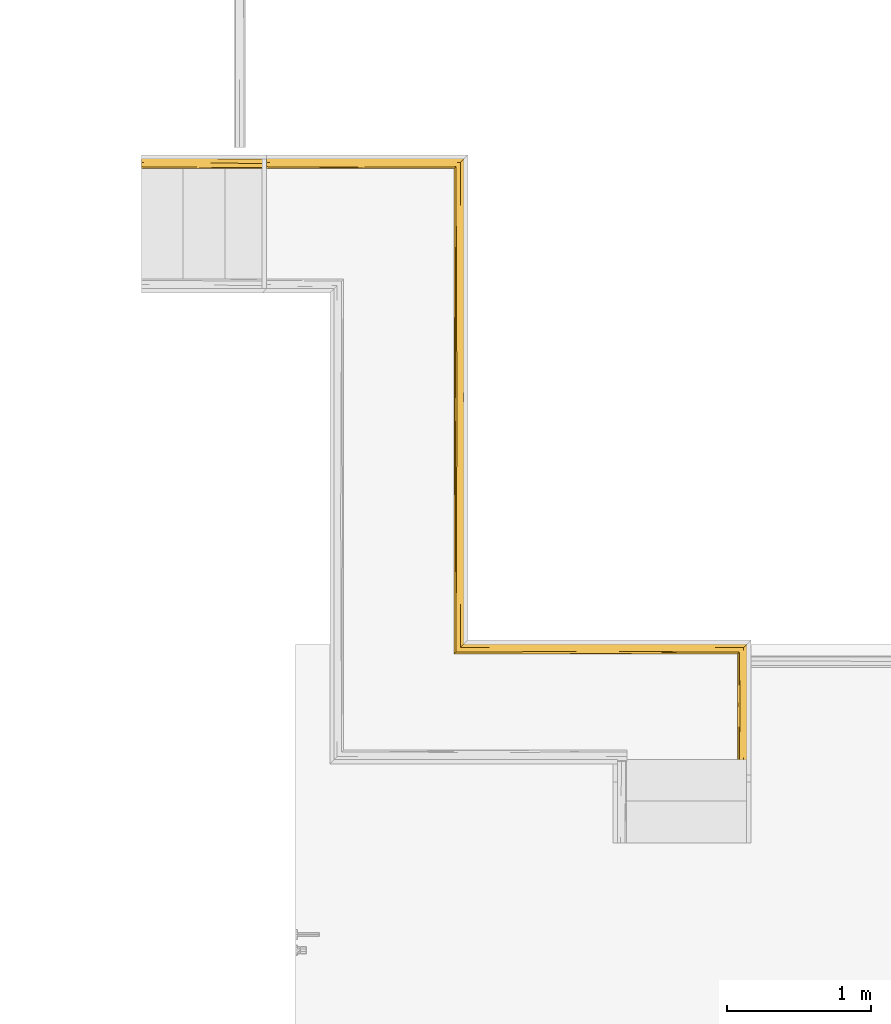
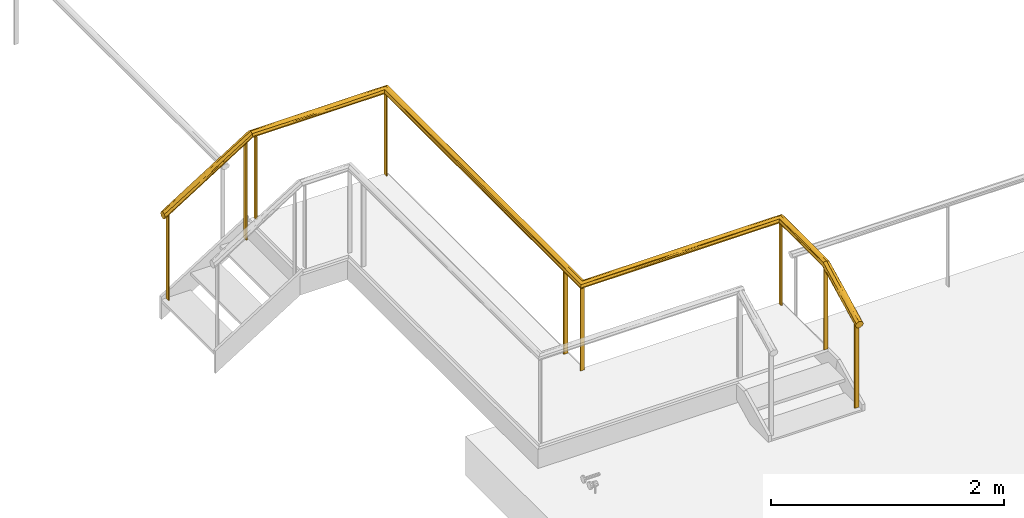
# One storey, part 14 of 15: 2 railings, 2 elements without a shape of their own.
"""IFC2X3 building model written with IfcOpenShell, lengths in centimetres."""

import ifcopenshell
import ifcopenshell.guid

model = None  # the IFC model being written
_history = None  # IfcOwnerHistory: only IFC2X3 demands one
_inside = {}  # id of a spatial element -> (the spatial element, [elements in it])
_under = {}  # id of a project, library or spatial element -> (it, [spatial elements below it])
_declared = {}  # id of a project -> (the project, [libraries it declares])
_typed = {}  # id of a type object -> (the type object, [elements of that type])
_made_of = {}  # id of a material, layer set ... -> (it, [elements and type objects made of it])


def new_model(schema):
    """Start an empty IFC model of exactly this schema.

    Asked for "IFC4X3", IfcOpenShell would pick the latest addendum, in which some entities
    have other attributes; the version numbers below select the first issue.
    IFC2X3 requires an IfcOwnerHistory on every rooted entity: one is made here for all.
    """
    global model, _history
    if schema == "IFC4X3":
        model = ifcopenshell.file(schema_version=(4, 3, 0, 0))
    else:
        model = ifcopenshell.file(schema=schema)
    _inside.clear()
    _under.clear()
    _declared.clear()
    _typed.clear()
    _made_of.clear()
    _history = None
    if model.schema == "IFC2X3":
        org = make("IfcOrganization", Name="unknown")
        user = make(
            "IfcPersonAndOrganization",
            ThePerson=make("IfcPerson", FamilyName="unknown"),
            TheOrganization=org,
        )
        app = make(
            "IfcApplication",
            ApplicationDeveloper=org,
            Version="unknown",
            ApplicationFullName="unknown",
            ApplicationIdentifier="unknown",
        )
        _history = make(
            "IfcOwnerHistory",
            OwningUser=user,
            OwningApplication=app,
            ChangeAction="ADDED",
            CreationDate=0,
        )
    return model


def make(cls, **values):
    """One entity of the class cls with the attributes given. An attribute that is None is left unset."""
    return model.create_entity(
        cls, **{name: value for name, value in values.items() if value is not None}
    )


def entity(cls, *values):
    """Any entity or typed value of the class cls, its attributes in the order of the schema. None: left unset."""
    e = model.create_entity(cls)
    for i, value in enumerate(values):
        if value is not None:
            e[i] = value
    return e


def rooted(cls, **values):
    """An entity with a GlobalId (a new one), such as an element, a storey or a relation."""
    return make(cls, GlobalId=ifcopenshell.guid.new(), OwnerHistory=_history, **values)


def si_unit(unit_type, name, prefix=None):
    """IfcSIUnit, for example si_unit("LENGTHUNIT", "METRE", prefix="MILLI")."""
    return make("IfcSIUnit", UnitType=unit_type, Prefix=prefix, Name=name)


def converted_unit(unit_type, name, factor, base, dimensions=None, offset=None):
    """IfcConversionBasedUnit, such as the inch: factor (a typed value) times the base unit."""
    return make(
        "IfcConversionBasedUnit"
        if offset is None
        else "IfcConversionBasedUnitWithOffset",
        ConversionOffset=offset,
        Dimensions=None
        if dimensions is None
        else entity("IfcDimensionalExponents", *dimensions),
        UnitType=unit_type,
        Name=name,
        ConversionFactor=make(
            "IfcMeasureWithUnit", ValueComponent=factor, UnitComponent=base
        ),
    )


def derived_unit(unit_type, elements):
    """IfcDerivedUnit: a product of units, each with its exponent."""
    return make(
        "IfcDerivedUnit",
        Elements=[
            make("IfcDerivedUnitElement", Unit=unit, Exponent=power)
            for unit, power in elements
        ],
        UnitType=unit_type,
    )


def assignment(units):
    """IfcUnitAssignment: the units of a project."""
    return None if units is None else make("IfcUnitAssignment", Units=units)


def point(xyz):
    """IfcCartesianPoint."""
    return None if xyz is None else make("IfcCartesianPoint", Coordinates=xyz)


def direction(xyz):
    """IfcDirection."""
    return None if xyz is None else make("IfcDirection", DirectionRatios=xyz)


def frame(location, z_axis=None, x_axis=None):
    """IfcAxis2Placement3D, a coordinate frame: its origin and axes. An axis left out is left unset."""
    return make(
        "IfcAxis2Placement3D",
        Location=point(location),
        Axis=direction(z_axis),
        RefDirection=direction(x_axis),
    )


def origin():
    """The frame at (0, 0, 0) with its axes left unset."""
    return frame((0.0, 0.0, 0.0))


def place(relative_to, where):
    """IfcLocalPlacement: puts the frame where relative to a parent placement (None: the world)."""
    return make(
        "IfcLocalPlacement", PlacementRelTo=relative_to, RelativePlacement=where
    )


def context(
    kind, dimensions, precision=None, world=None, true_north=None, identifier=None
):
    """IfcGeometricRepresentationContext, for example the 3D "Model" context."""
    return make(
        "IfcGeometricRepresentationContext",
        ContextIdentifier=identifier,
        ContextType=kind,
        CoordinateSpaceDimension=dimensions,
        Precision=precision,
        WorldCoordinateSystem=world,
        TrueNorth=true_north,
    )


def subcontext(parent, identifier, kind, view, scale=None):
    """IfcGeometricRepresentationSubContext, for example "Body" below "Model"."""
    return make(
        "IfcGeometricRepresentationSubContext",
        ContextIdentifier=identifier,
        ContextType=kind,
        ParentContext=parent,
        TargetScale=scale,
        TargetView=view,
    )


def project(units=None, contexts=None):
    """IfcProject with its units and contexts."""
    return rooted(
        "IfcProject",
        Name="project",
        RepresentationContexts=contexts,
        UnitsInContext=assignment(units),
    )


def spatial(cls, under=None, at=None, **own):
    """A site, building, storey or space (cls), placed at a placement, below another one or the project."""
    s = rooted(cls, ObjectPlacement=at, **own)
    if under is not None:
        _under.setdefault(under.id(), (under, []))[1].append(s)
    return s


def faces_of(points, faces, orient=None, outer=None):
    """IfcFace entities. A face is a list of loops; a loop is a list of indices into points, from 0.

    orient and outer hold one flag for each loop. By default every Orientation is true, the
    first loop of a face is its IfcFaceOuterBound and the others are IfcFaceBound.
    """
    made = []
    for i, loops in enumerate(faces):
        bounds = []
        for j, loop in enumerate(loops):
            is_outer = j == 0 if outer is None else outer[i][j]
            bounds.append(
                make(
                    "IfcFaceOuterBound" if is_outer else "IfcFaceBound",
                    Bound=make("IfcPolyLoop", Polygon=[points[k] for k in loop]),
                    Orientation=True if orient is None else orient[i][j],
                )
            )
        made.append(make("IfcFace", Bounds=bounds))
    return made


def faceted_brep(points, faces, orient=None, outer=None, voids=None):
    """IfcFacetedBrep: a solid bounded by flat faces; with voids (closed shells), ...WithVoids."""
    shared = [point(p) for p in points]
    hull = make("IfcClosedShell", CfsFaces=faces_of(shared, faces, orient, outer))
    if voids is None:
        return make("IfcFacetedBrep", Outer=hull)
    return make(
        "IfcFacetedBrepWithVoids",
        Outer=hull,
        Voids=[
            make(cls, CfsFaces=faces_of(shared, fs, o, b)) for cls, fs, o, b in voids
        ],
    )


def shape(context_of_items, identifier, shape_type, items):
    """IfcShapeRepresentation: the items that make up one representation, for example the "Body"."""
    return make(
        "IfcShapeRepresentation",
        ContextOfItems=context_of_items,
        RepresentationIdentifier=identifier,
        RepresentationType=shape_type,
        Items=items,
    )


def material(Name=None, Category=None):
    """IfcMaterial."""
    return make("IfcMaterial", Name=Name, Category=Category)


def material_list(materials):
    """IfcMaterialList."""
    return make("IfcMaterialList", Materials=materials)


def made_of(thing, what):
    """Note that an element or type object is made of a material, layer set ...; save() writes the relation."""
    if what is not None:
        _made_of.setdefault(what.id(), (what, []))[1].append(thing)
    return thing


def element(
    cls,
    number,
    at=None,
    inside=None,
    cuts=None,
    type_object=None,
    material=None,
    context=None,
    identifier="Body",
    shape_type=None,
    held_by="IfcProductDefinitionShape",
    body=None,
    shapes=None,
    **own,
):
    """One element of the class cls, such as IfcWall. Its Tag is "e" and its number.

    at: its placement. inside: the storey or other place that contains it. cuts: it is an
    opening in that element (IfcRelVoidsElement). A single representation is given by context,
    identifier, shape_type and body (its items); several are given by shapes. held_by: the class
    of the entity that holds the representations. save() writes the other relations.
    """
    e = rooted(cls, Tag="e%d" % number, ObjectPlacement=at, **own)
    if body is not None:
        shapes = [shape(context, identifier, shape_type, body)]
    if shapes is not None:
        e.Representation = make(held_by, Representations=shapes)
    if inside is not None:
        _inside.setdefault(inside.id(), (inside, []))[1].append(e)
    if cuts is not None:
        rooted(
            "IfcRelVoidsElement", RelatingBuildingElement=cuts, RelatedOpeningElement=e
        )
    if type_object is not None:
        _typed.setdefault(type_object.id(), (type_object, []))[1].append(e)
    return made_of(e, material)


def aggregate(whole, parts):
    """IfcRelAggregates: a whole, such as a stair, and the parts it consists of."""
    return rooted("IfcRelAggregates", RelatingObject=whole, RelatedObjects=parts)


def save(model, path):
    """Write the relations noted so far, then the file.

    IfcRelAggregates (storeys below a building ...), IfcRelContainedInSpatialStructure (elements
    in a storey), IfcRelDefinesByType, IfcRelAssociatesMaterial and IfcRelDeclares: one each for
    every whole, place, type object, material and project.
    """
    for whole, parts in _under.values():
        aggregate(whole, parts)
    for where, things in _inside.values():
        rooted(
            "IfcRelContainedInSpatialStructure",
            RelatedElements=things,
            RelatingStructure=where,
        )
    for kind, things in _typed.values():
        rooted("IfcRelDefinesByType", RelatedObjects=things, RelatingType=kind)
    for what, things in _made_of.values():
        rooted("IfcRelAssociatesMaterial", RelatedObjects=things, RelatingMaterial=what)
    for by, libraries in _declared.values():
        rooted("IfcRelDeclares", RelatingContext=by, RelatedDefinitions=libraries)
    model.write(path)


model = new_model("IFC2X3")

# Units and contexts
model_context = context("Model", 3, precision=0.001, world=origin(), true_north=direction((6.12303176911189e-17, 1.0)))
body_context = subcontext(model_context, "Body", "Model", "MODEL_VIEW")
ifc_project = project(units=[si_unit("LENGTHUNIT", "METRE", prefix="CENTI"), si_unit("AREAUNIT", "SQUARE_METRE"), si_unit("VOLUMEUNIT", "CUBIC_METRE"), converted_unit("PLANEANGLEUNIT", "DEGREE", entity("IfcRatioMeasure", 0.0174532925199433), si_unit("PLANEANGLEUNIT", "RADIAN"), dimensions=[0, 0, 0, 0, 0, 0, 0]), si_unit("MASSUNIT", "GRAM", prefix="KILO"), si_unit("TIMEUNIT", "SECOND"), si_unit("FREQUENCYUNIT", "HERTZ"), si_unit("THERMODYNAMICTEMPERATUREUNIT", "DEGREE_CELSIUS"), derived_unit("THERMALTRANSMITTANCEUNIT", [(si_unit("MASSUNIT", "GRAM", prefix="KILO"), 1), (si_unit("THERMODYNAMICTEMPERATUREUNIT", "KELVIN"), -1), (si_unit("TIMEUNIT", "SECOND"), -3)]), derived_unit("VOLUMETRICFLOWRATEUNIT", [(si_unit("LENGTHUNIT", "METRE"), 3), (si_unit("TIMEUNIT", "SECOND"), -1)]), si_unit("ELECTRICCURRENTUNIT", "AMPERE"), si_unit("ELECTRICVOLTAGEUNIT", "VOLT"), si_unit("POWERUNIT", "WATT"), si_unit("FORCEUNIT", "NEWTON", prefix="KILO"), si_unit("ILLUMINANCEUNIT", "LUX"), si_unit("LUMINOUSFLUXUNIT", "LUMEN"), si_unit("LUMINOUSINTENSITYUNIT", "CANDELA"), derived_unit("USERDEFINED", [(si_unit("MASSUNIT", "GRAM", prefix="KILO"), -1), (si_unit("LENGTHUNIT", "METRE"), -2), (si_unit("TIMEUNIT", "SECOND"), 3), (si_unit("LUMINOUSFLUXUNIT", "LUMEN"), 1)]), derived_unit("LINEARVELOCITYUNIT", [(si_unit("LENGTHUNIT", "METRE"), 1), (si_unit("TIMEUNIT", "SECOND"), -1)]), si_unit("PRESSUREUNIT", "PASCAL"), derived_unit("USERDEFINED", [(si_unit("LENGTHUNIT", "METRE"), -2), (si_unit("MASSUNIT", "GRAM", prefix="KILO"), 1), (si_unit("TIMEUNIT", "SECOND"), -2)])], contexts=[model_context])

# Site, building, storey
site_placement = place(None, frame((8.62739174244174, -249.285249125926, 0.0)))
site = spatial("IfcSite", under=ifc_project, at=site_placement, Name="Default", CompositionType="ELEMENT")
building_placement = place(site_placement, origin())
building = spatial("IfcBuilding", under=site, at=building_placement, CompositionType="ELEMENT")
storey_placement = place(building_placement, frame((0.0, 0.0, 801.0)))
storey = spatial("IfcBuildingStorey", under=building, at=storey_placement, Name="Acrotère E3", CompositionType="ELEMENT", Elevation=801.0)

# Stair, railing
stair_1_placement = place(storey_placement, origin())
stair_1 = element("IfcStair", 1, at=stair_1_placement, inside=storey, Name="Escalier assemblé:Escalier", ShapeType="NOTDEFINED")
ifc_material_1 = material(Name="Peinture - Grise")
ifc_material_2 = material(Name="Pin (1)")
ifc_material_list_1 = material_list([ifc_material_1, ifc_material_2])
railing_1_placement = place(stair_1_placement, frame((2946.90482781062, 6425.77789410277, -0.666666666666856)))
railing_1 = element("IfcRailing", 2, at=railing_1_placement, material=ifc_material_list_1, Name="Garde-corps:Type Bateau", ObjectType="Garde-corps:Type Bateau", PredefinedType="NOTDEFINED", context=body_context, shape_type="Brep", body=[
    faceted_brep([(82.6000000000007, 2.15952722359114, 137.963695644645), (82.6000000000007, 6.15952722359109, 137.963695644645), (81.4000000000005, 6.15952722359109, 137.963695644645), (81.4000000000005, 2.15952722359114, 137.963695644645), (82.6000000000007, 2.15952722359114, 36.4444444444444), (81.4000000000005, 2.15952722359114, 36.4444444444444), (81.4000000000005, 6.15952722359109, 36.4444444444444), (82.6000000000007, 6.15952722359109, 36.4444444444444)], [[[0, 1, 2, 3]], [[4, 5, 6, 7]], [[3, 5, 4, 0]], [[2, 6, 5, 3]], [[1, 7, 6, 2]], [[0, 4, 7, 1]]]),
    faceted_brep([(5.60000000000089, 2.15952722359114, 89.5805538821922), (5.60000000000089, 6.15952722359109, 89.5805538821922), (4.40000000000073, 6.15952722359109, 89.5805538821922), (4.40000000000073, 2.15952722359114, 89.5805538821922), (5.60000000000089, 2.15952722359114, 0.0), (4.40000000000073, 2.15952722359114, 0.0), (4.40000000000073, 6.15952722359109, 0.0), (5.60000000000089, 6.15952722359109, 0.0)], [[[0, 1, 2, 3]], [[4, 5, 6, 7]], [[3, 5, 4, 0]], [[2, 6, 5, 3]], [[1, 7, 6, 2]], [[0, 4, 7, 1]]]),
    faceted_brep([(0.0, 1.48300479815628, 92.633024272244), (0.0, 3.03032293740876, 93.0783492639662), (0.0, 4.5776410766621, 93.5236742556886), (0.0, 5.98661813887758, 92.8031232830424), (0.0, 7.39559520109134, 92.0825723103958), (0.0, 7.77756121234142, 91.0412861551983), (0.0, 8.1595272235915, 90.0), (0.0, 7.49778843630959, 88.6834878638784), (0.0, 6.83604964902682, 87.3669757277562), (0.0, 5.28873150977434, 86.9216507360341), (0.0, 4.5150724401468, 86.6989882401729), (0.0, 3.741413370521, 86.4763257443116), (0.0, 2.33243630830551, 87.1968767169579), (0.0, 0.923459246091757, 87.9174276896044), (0.0, 0.541493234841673, 88.9587138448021), (0.0, 0.15952722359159, 90.0), (0.0, 0.821266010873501, 91.316512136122), (87.0, 0.821266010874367, 143.350154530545), (87.0, 1.48300479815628, 142.033642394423), (87.0, 3.03032293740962, 141.588317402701), (87.0, 4.5776410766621, 141.142992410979), (87.0, 5.98661813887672, 141.863543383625), (87.0, 7.39559520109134, 142.584094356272), (87.0, 7.77756121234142, 143.625380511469), (87.0, 8.1595272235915, 144.666666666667), (87.0, 7.49778843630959, 145.983178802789), (87.0, 6.83604964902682, 147.299690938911), (87.0, 5.28873150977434, 147.745015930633), (87.0, 3.741413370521, 148.190340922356), (87.0, 2.33243630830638, 147.46978994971), (87.0, 0.923459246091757, 146.749238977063), (87.0, 0.541493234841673, 145.707952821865), (87.0, 0.15952722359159, 144.666666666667), (36.8666003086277, 8.02411869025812, 112.251143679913), (46.6073203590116, 0.7842993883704, 117.384441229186), (45.3720805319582, 3.42748462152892, 115.026415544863), (38.2869607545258, 6.05579838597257, 110.938063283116), (43.5242527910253, 4.98840300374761, 113.882393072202), (46.5504868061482, 2.3819247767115, 116.076120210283), (36.1371269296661, 1.48583532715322, 110.071574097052), (45.8486968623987, 0.336276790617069, 117.767559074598), (26.1494504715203, 8.15952722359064, 106.431072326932), (60.8505463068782, 8.1595272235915, 128.235592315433), (43.3404633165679, 7.61809586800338, 115.453084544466), (48.2161761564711, 6.94974299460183, 117.758020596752), (60.8505463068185, 0.15952722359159, 128.235592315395), (26.1494504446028, 0.15952722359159, 106.431072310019), (46.3428116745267, 0.560433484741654, 120.66567183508), (42.8649360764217, 1.1628965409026, 119.281198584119), (39.4937956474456, 1.99016423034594, 117.792777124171), (49.7508696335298, 2.98258791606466, 124.647325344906), (42.7976339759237, 4.12025700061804, 120.434912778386), (39.7696267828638, 8.06398392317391, 115.759107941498), (39.6862148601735, 7.72721402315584, 116.539078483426), (39.5561967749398, 5.2047299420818, 118.275222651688), (42.7017685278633, 7.10232025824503, 119.231526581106), (49.6878665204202, 6.21182380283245, 124.262680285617)], [[[0, 1, 2, 3, 4, 5, 6, 7, 8, 9, 10, 11, 12, 13, 14, 15, 16]], [[17, 18, 19, 20, 21, 22, 23, 24, 25, 26, 27, 28, 29, 30, 31, 32]], [[7, 6, 33]], [[14, 13, 34]], [[11, 35, 12]], [[9, 36, 37]], [[37, 36, 21]], [[12, 38, 39]], [[13, 39, 34]], [[17, 34, 18]], [[35, 38, 12]], [[10, 9, 37]], [[14, 34, 40]], [[33, 6, 41, 42, 24]], [[8, 43, 44]], [[39, 13, 12]], [[36, 8, 44]], [[17, 40, 34]], [[19, 18, 38]], [[18, 34, 39]], [[40, 17, 32]], [[40, 32, 45, 46, 15]], [[14, 40, 15]], [[39, 38, 18]], [[35, 19, 38]], [[35, 20, 19]], [[11, 10, 35]], [[20, 35, 37]], [[10, 37, 35]], [[20, 37, 21]], [[22, 21, 44]], [[36, 9, 8]], [[36, 44, 21]], [[22, 44, 43]], [[33, 23, 43]], [[7, 43, 8]], [[23, 22, 43]], [[43, 7, 33]], [[23, 33, 24]], [[30, 47, 31]], [[48, 49, 0]], [[49, 50, 1]], [[1, 50, 51]], [[52, 53, 25]], [[2, 51, 54]], [[55, 26, 25]], [[55, 53, 4]], [[52, 25, 24]], [[16, 15, 46]], [[55, 25, 53]], [[5, 4, 53]], [[5, 53, 52]], [[56, 55, 3]], [[56, 3, 54]], [[48, 29, 49]], [[26, 55, 56]], [[52, 24, 42, 41, 6]], [[54, 51, 27]], [[55, 4, 3]], [[56, 27, 26]], [[27, 56, 54]], [[28, 27, 51]], [[2, 54, 3]], [[28, 51, 50]], [[51, 2, 1]], [[50, 29, 28]], [[29, 50, 49]], [[30, 29, 48]], [[0, 49, 1]], [[31, 46, 45, 32]], [[48, 0, 16]], [[16, 47, 48]], [[5, 52, 6]], [[47, 16, 46]], [[48, 47, 30]], [[31, 47, 46]]]),
])
aggregate(stair_1, [railing_1])

stair_2_placement = place(storey_placement, origin())
stair_2 = element("IfcStair", 3, at=stair_2_placement, inside=storey, Name="Escalier assemblé:Escalier", ShapeType="NOTDEFINED")
ifc_material_list_2 = material_list([ifc_material_1, ifc_material_2])
railing_2_placement = place(stair_2_placement, frame((3033.90482781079, 5956.9802081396, 24.8888888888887)))
railing_2 = element("IfcRailing", 4, at=railing_2_placement, material=ifc_material_list_2, Name="Garde-corps:Type Bateau", ObjectType="Garde-corps:Type Bateau", PredefinedType="NOTDEFINED", context=body_context, shape_type="Brep", body=[
    faceted_brep([(132.45999998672, 163.608606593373, 116.095764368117), (136.45999998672, 163.608606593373, 116.095764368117), (136.45999998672, 164.808606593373, 116.095764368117), (132.45999998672, 164.808606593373, 116.095764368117), (132.45999998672, 163.608606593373, 29.111111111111), (132.45999998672, 164.808606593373, 29.111111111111), (136.45999998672, 164.808606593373, 29.111111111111), (136.45999998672, 163.608606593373, 29.111111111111)], [[[0, 1, 2, 3]], [[4, 5, 6, 7]], [[3, 5, 4, 0]], [[2, 6, 5, 3]], [[1, 7, 6, 2]], [[0, 4, 7, 1]]]),
    faceted_brep([(329.459999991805, 57.3999999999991, 116.095764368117), (333.459999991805, 57.3999999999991, 116.095764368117), (333.459999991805, 58.5999999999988, 116.095764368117), (329.459999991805, 58.5999999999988, 116.095764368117), (329.459999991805, 57.3999999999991, 29.111111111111), (329.459999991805, 58.5999999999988, 29.111111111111), (333.459999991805, 58.5999999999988, 29.111111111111), (333.459999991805, 57.3999999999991, 29.111111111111)], [[[0, 1, 2, 3]], [[4, 5, 6, 7]], [[3, 5, 4, 0]], [[2, 6, 5, 3]], [[1, 7, 6, 2]], [[0, 4, 7, 1]]]),
    faceted_brep([(332.059999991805, 133.459999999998, 116.095764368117), (332.059999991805, 137.459999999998, 116.095764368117), (330.859999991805, 137.459999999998, 116.095764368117), (330.859999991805, 133.459999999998, 116.095764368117), (332.059999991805, 133.459999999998, 29.111111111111), (330.859999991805, 133.459999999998, 29.111111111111), (330.859999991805, 137.459999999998, 29.111111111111), (332.059999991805, 137.459999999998, 29.111111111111)], [[[0, 1, 2, 3]], [[4, 5, 6, 7]], [[3, 5, 4, 0]], [[2, 6, 5, 3]], [[1, 7, 6, 2]], [[0, 4, 7, 1]]]),
    faceted_brep([(132.45999998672, 134.859999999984, 116.095764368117), (136.45999998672, 134.859999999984, 116.095764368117), (136.45999998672, 136.059999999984, 116.095764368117), (132.45999998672, 136.059999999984, 116.095764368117), (132.45999998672, 134.859999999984, 29.111111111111), (132.45999998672, 136.059999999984, 29.111111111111), (136.45999998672, 136.059999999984, 29.111111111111), (136.45999998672, 134.859999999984, 29.111111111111)], [[[0, 1, 2, 3]], [[4, 5, 6, 7]], [[3, 5, 4, 0]], [[2, 6, 5, 3]], [[1, 7, 6, 2]], [[0, 4, 7, 1]]]),
    faceted_brep([(135.059999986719, 470.957213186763, 116.095764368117), (135.059999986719, 474.957213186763, 116.095764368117), (133.859999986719, 474.957213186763, 116.095764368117), (133.859999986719, 470.957213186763, 116.095764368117), (135.059999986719, 470.957213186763, 29.111111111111), (133.859999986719, 470.957213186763, 29.111111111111), (133.859999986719, 474.957213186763, 29.111111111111), (135.059999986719, 474.957213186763, 29.111111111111)], [[[0, 1, 2, 3]], [[4, 5, 6, 7]], [[3, 5, 4, 0]], [[2, 6, 5, 3]], [[1, 7, 6, 2]], [[0, 4, 7, 1]]]),
    faceted_brep([(329.459999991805, 4.399999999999, 89.1357311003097), (333.459999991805, 4.399999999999, 89.1357311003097), (333.459999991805, 5.59999999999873, 89.1357311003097), (329.459999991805, 5.59999999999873, 89.1357311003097), (329.459999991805, 4.399999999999, 0.0), (329.459999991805, 5.59999999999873, 0.0), (333.459999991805, 5.59999999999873, 0.0), (333.459999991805, 4.399999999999, 0.0)], [[[0, 1, 2, 3]], [[4, 5, 6, 7]], [[3, 5, 4, 0]], [[2, 6, 5, 3]], [[1, 7, 6, 2]], [[0, 4, 7, 1]]]),
    faceted_brep([(5.60000000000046, 470.957213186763, 116.095764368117), (5.60000000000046, 474.957213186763, 116.095764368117), (4.4000000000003, 474.957213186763, 116.095764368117), (4.4000000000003, 470.957213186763, 116.095764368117), (5.60000000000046, 470.957213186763, 29.111111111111), (4.4000000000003, 470.957213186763, 29.111111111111), (4.4000000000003, 474.957213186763, 29.111111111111), (5.60000000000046, 474.957213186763, 29.111111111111)], [[[0, 1, 2, 3]], [[4, 5, 6, 7]], [[3, 5, 4, 0]], [[2, 6, 5, 3]], [[1, 7, 6, 2]], [[0, 4, 7, 1]]]),
    faceted_brep([(0.0, 476.295474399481, 117.996393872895), (0.0, 475.633735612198, 116.881676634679), (0.0, 474.086417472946, 116.504611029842), (0.0, 472.539099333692, 116.127545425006), (0.0, 471.130122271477, 116.73765038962), (0.0, 469.721145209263, 117.347755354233), (0.0, 469.324942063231, 118.262296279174), (0.0, 468.957213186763, 119.111111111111), (0.0, 469.44945027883, 119.940298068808), (0.0, 469.865070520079, 120.640421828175), (0.0, 470.280690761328, 121.340545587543), (0.0, 471.82800890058, 121.717611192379), (0.0, 473.375327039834, 122.094676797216), (0.0, 474.784304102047, 121.484571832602), (0.0, 476.193281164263, 120.874466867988), (0.0, 476.575247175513, 119.99278898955), (0.0, 476.957213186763, 119.111111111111), (134.041886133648, 472.539099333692, 116.127545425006), (132.632909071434, 471.130122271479, 116.73765038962), (67.0209428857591, 471.732988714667, 116.255070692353), (66.3164544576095, 470.781863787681, 116.59353917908), (65.611966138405, 470.011020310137, 117.08195599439), (131.22393200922, 469.721145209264, 117.347755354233), (130.841965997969, 469.339179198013, 118.229433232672), (65.6119650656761, 469.395204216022, 117.746174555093), (70.7153311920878, 469.067158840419, 118.412572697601), (130.459999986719, 468.957213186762, 119.111111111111), (83.4251686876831, 468.957213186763, 119.111111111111), (80.9792287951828, 468.957213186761, 119.111111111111), (68.5682611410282, 474.969302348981, 116.518290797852), (67.0209431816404, 473.375327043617, 116.127545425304), (68.5682612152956, 475.796637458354, 116.998070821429), (73.4792933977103, 476.584936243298, 117.847271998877), (137.559362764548, 476.056575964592, 117.593962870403), (55.0348273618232, 476.957213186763, 119.111111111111), (57.4807748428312, 476.957213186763, 119.111111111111), (138.459999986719, 476.957213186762, 119.111111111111), (137.98220311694, 476.479416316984, 118.306249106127), (135.589204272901, 474.086417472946, 116.504611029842), (137.136522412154, 475.633735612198, 116.881676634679), (137.844035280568, 476.341248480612, 118.07350157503), (68.8480330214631, 476.521239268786, 120.473082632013), (137.696067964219, 476.193281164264, 120.874466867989), (137.985940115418, 476.483153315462, 120.205365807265), (138.078033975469, 476.575247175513, 119.99278898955), (76.9172436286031, 476.852337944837, 119.793571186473), (68.1435457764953, 474.205312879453, 121.961332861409), (68.8480341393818, 475.855869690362, 121.178417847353), (133.330795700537, 471.828008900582, 121.717611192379), (134.87811383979, 473.375327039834, 122.094676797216), (67.439057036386, 472.552767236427, 122.095736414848), (65.891738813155, 469.913918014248, 121.057986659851), (65.8917387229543, 470.803397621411, 121.63907603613), (60.9914690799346, 469.343553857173, 120.397413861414), (136.287090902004, 474.784304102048, 121.484571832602), (131.121738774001, 469.618951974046, 120.225828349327), (131.783477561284, 470.280690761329, 121.340545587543), (65.2200861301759, 475.095498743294, 121.646481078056), (70.8757806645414, 471.641617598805, 121.944206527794), (130.896808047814, 300.972540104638, 117.747912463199), (131.223932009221, 132.223932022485, 117.347755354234), (130.84196599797, 131.841966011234, 118.229433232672), (130.564640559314, 316.790280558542, 118.429404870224), (130.45999998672, 261.707692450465, 119.111111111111), (133.219115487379, 302.381515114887, 116.259117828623), (131.543284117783, 300.97253834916, 117.058141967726), (137.731096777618, 315.572780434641, 117.384493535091), (132.632909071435, 133.6329090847, 116.73765038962), (134.04188613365, 135.041886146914, 116.127545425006), (134.872583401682, 303.790492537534, 116.127112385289), (137.798261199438, 138.798261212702, 117.996393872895), (137.136522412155, 138.13652242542, 116.881676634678), (135.589204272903, 136.589204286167, 116.504611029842), (136.455182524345, 305.33781070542, 116.510952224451), (138.308561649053, 302.652160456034, 118.293448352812), (138.45999998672, 346.710452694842, 119.111111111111), (138.45999998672, 269.707692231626, 119.111111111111), (138.45999998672, 139.459999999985, 119.111111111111), (130.765204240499, 131.765204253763, 118.406619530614), (130.45999998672, 131.459999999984, 119.111111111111), (132.313945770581, 305.928681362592, 116.579436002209), (137.953608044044, 307.444675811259, 120.5721108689), (137.144578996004, 307.44467388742, 121.335090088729), (136.287090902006, 137.28709091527, 121.484571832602), (135.691249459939, 304.626720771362, 121.965452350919), (137.69606796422, 138.696067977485, 120.874466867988), (138.337964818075, 328.741628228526, 119.84648936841), (132.455186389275, 301.532084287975, 121.707099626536), (134.047416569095, 304.626720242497, 122.095109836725), (130.611438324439, 305.765052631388, 119.92877386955), (131.225334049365, 301.532084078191, 120.875913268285), (134.878113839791, 135.878113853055, 122.094676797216), (131.783477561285, 132.78347757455, 121.340545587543), (133.330795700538, 134.330795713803, 121.717611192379), (130.856563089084, 131.856563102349, 119.779132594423), (131.075964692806, 132.075964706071, 120.148720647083), (138.07803397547, 139.078033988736, 119.99278898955), (131.253126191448, 132.253126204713, 120.447154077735), (229.7239308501, 131.897356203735, 117.747106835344), (229.723932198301, 132.526824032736, 117.0713760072), (231.13290898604, 133.300315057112, 116.585964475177), (328.223932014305, 132.223932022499, 117.347755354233), (327.841966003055, 131.841966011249, 118.229433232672), (235.636522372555, 137.83153000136, 116.695244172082), (334.13652241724, 138.136522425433, 116.881676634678), (332.589204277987, 136.589204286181, 116.504611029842), (239.081663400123, 131.570904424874, 118.409576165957), (234.089204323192, 136.936595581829, 116.323000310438), (232.541885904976, 134.231898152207, 116.25600720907), (229.970305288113, 131.459999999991, 119.111111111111), (235.636522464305, 138.597993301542, 117.250718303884), (331.041886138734, 135.041886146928, 116.127545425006), (329.632909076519, 133.632909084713, 116.73765038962), (239.403270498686, 139.124162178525, 117.907854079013), (334.666873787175, 138.666873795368, 117.775068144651), (232.541886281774, 135.868974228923, 116.126832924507), (235.949698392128, 139.459999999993, 119.111111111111), (335.06343688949, 139.063436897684, 118.443089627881), (334.85060943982, 138.850609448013, 118.084575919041), (335.459999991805, 139.459999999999, 119.111111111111), (327.459999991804, 131.459999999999, 119.111111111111), (236.196066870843, 139.02264379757, 120.475115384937), (334.696067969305, 138.696067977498, 120.874466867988), (334.970383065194, 138.970383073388, 120.241275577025), (335.078033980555, 139.078033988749, 119.992788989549), (230.283477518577, 133.088469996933, 121.526978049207), (246.226331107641, 139.349155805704, 119.812458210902), (234.787091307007, 136.70402868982, 121.962333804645), (236.19606813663, 138.393175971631, 121.150846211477), (230.283477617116, 132.322006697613, 120.971503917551), (231.83079574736, 133.983404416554, 121.899221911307), (226.516729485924, 131.795837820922, 120.314368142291), (333.28709090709, 137.287090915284, 121.484571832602), (331.878113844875, 135.878113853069, 122.094676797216), (233.378113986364, 135.051025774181, 122.095389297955), (328.78347756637, 132.783477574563, 121.340545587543), (330.330795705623, 134.330795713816, 121.717611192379), (328.121738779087, 132.121738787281, 120.225828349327), (234.78709080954, 137.619684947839, 121.636257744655), (327.89924638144, 95.3208153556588, 117.744333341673), (328.223932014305, 58.4176975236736, 117.347755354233), (327.841966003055, 58.2088487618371, 118.229433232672), (328.472384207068, 95.3208147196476, 117.11631526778), (327.56888950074, 96.3391338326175, 118.415889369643), (330.221950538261, 96.0975628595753, 116.258424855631), (329.63290907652, 58.5622170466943, 116.73765038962), (331.041886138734, 58.7067365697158, 116.127545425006), (334.295803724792, 98.3323115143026, 116.995337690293), (334.913787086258, 105.089139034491, 117.597791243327), (335.308706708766, 97.2677139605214, 118.293832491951), (335.459999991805, 109.077017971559, 119.111111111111), (335.459999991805, 89.9946352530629, 119.111111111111), (335.459999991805, 58.0, 119.111111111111), (331.90073704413, 97.6033114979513, 116.129377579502), (332.589204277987, 58.6174185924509, 116.504611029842), (333.480094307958, 98.3323115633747, 116.521794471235), (334.13652241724, 58.528100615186, 116.881676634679), (327.459999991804, 58.0, 119.111111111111), (327.459999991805, 88.3829839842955, 119.111111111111), (327.459999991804, 89.9946333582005, 119.111111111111), (329.21876743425, 96.0975631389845, 116.626258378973), (334.798261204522, 58.2640503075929, 117.996393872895), (332.694028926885, 96.5856887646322, 121.964777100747), (334.134919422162, 96.9631029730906, 121.341627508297), (335.078033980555, 57.7911512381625, 119.992788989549), (334.696067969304, 57.582302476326, 120.874466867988), (333.28709090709, 57.4377829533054, 121.484571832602), (334.944024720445, 98.1391858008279, 120.584927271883), (335.335313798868, 104.312381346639, 119.854308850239), (331.064311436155, 96.5856885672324, 122.096396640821), (329.461103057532, 95.1276885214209, 121.709664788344), (330.330795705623, 57.3825814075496, 121.71761119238), (328.22943181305, 95.1276884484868, 120.880130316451), (331.878113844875, 57.2932634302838, 122.094676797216), (327.769570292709, 95.0150935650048, 120.268331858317), (328.78347756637, 57.4718993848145, 121.340545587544), (328.096192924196, 57.746143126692, 120.182795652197), (327.815601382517, 57.8581061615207, 119.710131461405), (328.121738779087, 57.7359496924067, 120.225828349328), (331.041886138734, 0.0, 93.338287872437), (329.632909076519, 0.0, 92.655646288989), (328.223932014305, 0.0, 91.9730047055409), (327.841966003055, 0.0, 90.9865023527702), (327.459999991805, 0.0, 90.0), (328.121738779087, 0.0, 88.752751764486), (328.78347756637, 0.0, 87.5055035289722), (330.330795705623, 0.0, 87.0836078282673), (331.878113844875, 0.0, 86.6617121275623), (333.28709090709, 0.0, 87.3443537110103), (333.991579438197, 0.0, 87.6856745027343), (334.696067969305, 0.0, 88.0269952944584), (335.189611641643, 0.0, 89.3016689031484), (335.459999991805, 0.0, 90.0), (334.798261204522, 0.0, 91.2472482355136), (334.13652241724, 0.0, 92.4944964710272), (332.589204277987, 0.0, 92.9163921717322), (328.651474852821, 32.064812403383, 103.703720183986), (327.98686654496, 29.4460406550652, 103.114288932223), (331.706489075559, 32.2552247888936, 102.83910713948), (332.795502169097, 25.7614364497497, 99.7660091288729), (335.31269461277, 31.2617779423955, 104.788234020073), (335.459999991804, 32.4774025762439, 106.300918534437), (335.459999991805, 25.5225957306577, 102.810191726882), (327.5901635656, 24.0857265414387, 101.239673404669), (330.613980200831, 29.5880288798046, 101.569958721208), (334.871784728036, 30.394577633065, 103.503334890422), (333.806435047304, 29.3899630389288, 102.032811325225), (329.537907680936, 25.4716100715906, 99.8408564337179), (327.459999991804, 32.4774025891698, 106.300918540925), (327.459999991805, 25.5225957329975, 102.810191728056), (335.052062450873, 30.8292519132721, 106.9505010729), (334.440077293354, 28.6573508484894, 106.622621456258), (333.610847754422, 25.7791427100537, 105.769066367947), (332.612343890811, 32.4910107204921, 109.522116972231), (331.484137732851, 28.3556865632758, 107.588779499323), (330.405873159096, 25.9530052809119, 106.264241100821), (329.4013308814, 32.7278442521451, 109.304599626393), (328.514932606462, 28.2437154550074, 106.447398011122), (327.569498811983, 25.0943380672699, 103.375263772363), (327.891300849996, 26.3304991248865, 104.731869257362)], [[[0, 1, 2, 3, 4, 5, 6, 7, 8, 9, 10, 11, 12, 13, 14, 15, 16]], [[17, 18, 19]], [[4, 20, 21]], [[22, 23, 24]], [[25, 26, 27, 28, 7]], [[24, 23, 25]], [[29, 30, 2]], [[21, 24, 5]], [[20, 4, 19]], [[31, 32, 33]], [[30, 19, 3]], [[29, 1, 31]], [[0, 16, 34, 35]], [[35, 36, 37]], [[0, 35, 32]], [[2, 30, 3]], [[26, 25, 23]], [[38, 29, 39]], [[22, 24, 21]], [[5, 24, 6]], [[22, 21, 18]], [[21, 5, 4]], [[25, 6, 24]], [[6, 25, 7]], [[17, 19, 30]], [[3, 19, 4]], [[39, 29, 31]], [[1, 29, 2]], [[32, 37, 40, 33]], [[31, 1, 0]], [[33, 39, 31]], [[37, 32, 35]], [[0, 32, 31]], [[30, 38, 17]], [[38, 30, 29]], [[20, 18, 21]], [[18, 20, 19]], [[41, 42, 43, 44]], [[34, 16, 15]], [[41, 44, 45]], [[12, 46, 13]], [[13, 47, 14]], [[48, 49, 50]], [[10, 51, 52]], [[15, 45, 34]], [[15, 14, 41]], [[53, 8, 27]], [[12, 11, 50]], [[51, 10, 9]], [[54, 46, 49]], [[14, 47, 41]], [[26, 55, 27]], [[8, 7, 28, 27]], [[56, 52, 51]], [[56, 48, 52]], [[42, 41, 47]], [[44, 36, 45]], [[47, 54, 42]], [[57, 46, 54]], [[41, 45, 15]], [[45, 36, 35, 34]], [[9, 8, 53]], [[51, 55, 56]], [[55, 51, 53]], [[52, 11, 10]], [[58, 50, 11]], [[9, 53, 51]], [[55, 53, 27]], [[58, 48, 50]], [[12, 50, 46]], [[50, 49, 46]], [[13, 46, 57]], [[58, 52, 48]], [[52, 58, 11]], [[57, 47, 13]], [[47, 57, 54]], [[59, 60, 61]], [[62, 63, 26]], [[62, 59, 61]], [[17, 64, 18]], [[18, 65, 22]], [[22, 65, 59]], [[66, 39, 33, 40]], [[59, 62, 23]], [[23, 22, 59]], [[67, 64, 68]], [[17, 38, 69]], [[66, 70, 71]], [[72, 73, 71]], [[74, 36, 75, 76, 77]], [[73, 38, 39]], [[74, 40, 37, 36]], [[72, 68, 69]], [[60, 59, 65]], [[63, 61, 78, 79]], [[65, 67, 60]], [[80, 64, 67]], [[23, 62, 26]], [[63, 62, 61]], [[69, 68, 64]], [[18, 64, 80]], [[73, 39, 66]], [[70, 66, 74]], [[73, 72, 69]], [[17, 69, 64]], [[66, 71, 73]], [[38, 73, 69]], [[40, 74, 66]], [[70, 74, 77]], [[80, 65, 18]], [[65, 80, 67]], [[81, 42, 82]], [[83, 82, 84]], [[82, 85, 81]], [[86, 76, 75, 36]], [[81, 86, 43]], [[87, 88, 48]], [[84, 82, 54]], [[26, 89, 55]], [[56, 55, 90]], [[43, 42, 81]], [[91, 83, 84]], [[92, 93, 87]], [[89, 79, 94, 95]], [[90, 89, 95]], [[89, 26, 63, 79]], [[88, 87, 93]], [[76, 96, 77]], [[88, 49, 48]], [[81, 85, 96]], [[85, 82, 83]], [[82, 42, 54]], [[86, 81, 96]], [[86, 36, 44, 43]], [[76, 86, 96]], [[91, 84, 88]], [[49, 84, 54]], [[56, 90, 87]], [[90, 95, 97, 92]], [[49, 88, 84]], [[91, 88, 93]], [[92, 87, 90]], [[56, 87, 48]], [[55, 89, 90]], [[98, 60, 99]], [[99, 67, 100]], [[101, 102, 98]], [[103, 104, 105]], [[102, 106, 98]], [[105, 107, 103]], [[108, 100, 67]], [[78, 106, 109]], [[103, 71, 110]], [[110, 71, 70]], [[111, 112, 108]], [[110, 104, 103]], [[113, 110, 70]], [[114, 104, 110]], [[114, 110, 113]], [[115, 107, 105]], [[71, 103, 72]], [[115, 68, 72]], [[113, 77, 116]], [[116, 117, 113]], [[113, 117, 118, 114]], [[116, 119, 117]], [[113, 70, 77]], [[120, 106, 102]], [[109, 79, 78]], [[101, 98, 99]], [[98, 78, 61, 60]], [[101, 99, 112]], [[99, 60, 67]], [[98, 106, 78]], [[109, 106, 120]], [[111, 108, 115]], [[68, 108, 67]], [[68, 115, 108]], [[111, 115, 105]], [[107, 72, 103]], [[72, 107, 115]], [[100, 112, 99]], [[112, 100, 108]], [[121, 122, 123, 124]], [[125, 93, 92]], [[121, 124, 126]], [[91, 127, 83]], [[83, 128, 85]], [[85, 128, 121]], [[97, 129, 92]], [[93, 125, 130]], [[120, 131, 109]], [[132, 127, 133]], [[91, 93, 134]], [[92, 129, 125]], [[135, 136, 125]], [[131, 129, 97]], [[129, 137, 135]], [[135, 125, 129]], [[137, 129, 131]], [[136, 133, 134]], [[96, 85, 121]], [[131, 120, 137]], [[94, 109, 131]], [[131, 97, 95, 94]], [[94, 79, 109]], [[126, 119, 116, 77]], [[77, 96, 126]], [[122, 121, 128]], [[124, 119, 126]], [[128, 132, 122]], [[132, 128, 138]], [[121, 126, 96]], [[134, 133, 127]], [[83, 127, 138]], [[130, 136, 134]], [[91, 134, 127]], [[93, 130, 134]], [[130, 125, 136]], [[132, 138, 127]], [[138, 128, 83]], [[139, 140, 141]], [[101, 142, 139]], [[143, 139, 141]], [[111, 144, 112]], [[112, 142, 101]], [[145, 144, 146]], [[147, 104, 148]], [[140, 139, 142]], [[149, 119, 150, 151, 152]], [[105, 153, 111]], [[154, 155, 156]], [[153, 146, 144]], [[102, 101, 139]], [[146, 153, 154]], [[143, 157, 158, 159, 120]], [[105, 104, 155]], [[139, 143, 102]], [[155, 104, 147]], [[142, 145, 140]], [[145, 142, 160]], [[141, 157, 143]], [[102, 143, 120]], [[149, 118, 117, 119]], [[112, 144, 160]], [[153, 105, 155]], [[156, 155, 147]], [[147, 161, 156]], [[148, 149, 161]], [[144, 111, 153]], [[154, 153, 155]], [[145, 160, 144]], [[160, 142, 112]], [[118, 149, 148]], [[161, 149, 152]], [[148, 104, 114, 118]], [[147, 148, 161]], [[162, 163, 132]], [[151, 164, 152]], [[165, 163, 166]], [[167, 165, 164]], [[167, 168, 123]], [[169, 170, 171]], [[163, 167, 122]], [[168, 151, 150, 119]], [[135, 137, 172]], [[162, 173, 166]], [[137, 174, 172]], [[170, 175, 171]], [[120, 174, 137]], [[176, 159, 158, 157, 177]], [[167, 163, 165]], [[170, 172, 175]], [[123, 122, 167]], [[136, 169, 133]], [[166, 163, 162]], [[132, 163, 122]], [[168, 167, 164]], [[168, 119, 124, 123]], [[151, 168, 164]], [[135, 172, 170]], [[172, 176, 178, 175]], [[176, 172, 174]], [[133, 169, 162]], [[173, 169, 171]], [[170, 136, 135]], [[136, 170, 169]], [[173, 162, 169]], [[133, 162, 132]], [[174, 159, 176]], [[159, 174, 120]], [[179, 180, 181, 182, 183, 184, 185, 186, 187, 188, 189, 190, 191, 192, 193, 194, 195]], [[140, 196, 197]], [[187, 198, 199]], [[200, 152, 201, 202]], [[197, 203, 141]], [[204, 145, 146]], [[161, 152, 200]], [[146, 198, 204]], [[156, 205, 206]], [[189, 205, 190]], [[205, 189, 206]], [[202, 192, 191]], [[191, 190, 205]], [[205, 161, 200]], [[200, 191, 205]], [[205, 156, 161]], [[199, 206, 188]], [[188, 206, 189]], [[200, 202, 191]], [[206, 154, 156]], [[154, 206, 199]], [[146, 154, 198]], [[199, 188, 187]], [[199, 198, 154]], [[204, 187, 186]], [[186, 207, 204]], [[204, 198, 187]], [[196, 207, 185]], [[145, 204, 207]], [[140, 145, 196]], [[207, 186, 185]], [[207, 196, 145]], [[208, 157, 141]], [[197, 185, 184]], [[197, 196, 185]], [[184, 183, 203]], [[203, 208, 141]], [[141, 140, 197]], [[184, 203, 197]], [[203, 183, 209, 208]], [[165, 210, 164]], [[211, 212, 194]], [[212, 213, 195]], [[195, 213, 214]], [[214, 171, 215]], [[179, 214, 215]], [[216, 180, 215]], [[175, 178, 217]], [[178, 218, 219]], [[193, 192, 202, 201]], [[178, 219, 217]], [[182, 181, 219]], [[218, 178, 176, 177]], [[216, 217, 180]], [[218, 209, 183]], [[211, 166, 212]], [[177, 157, 208, 209]], [[181, 217, 219]], [[175, 217, 216]], [[217, 181, 180]], [[216, 171, 175]], [[171, 216, 215]], [[182, 219, 218]], [[173, 171, 214]], [[179, 215, 180]], [[173, 214, 213]], [[214, 179, 195]], [[213, 166, 173]], [[166, 213, 212]], [[165, 166, 211]], [[194, 212, 195]], [[201, 152, 164]], [[211, 194, 193]], [[193, 210, 211]], [[182, 218, 183]], [[210, 193, 201]], [[209, 218, 177]], [[211, 210, 165]], [[164, 210, 201]]]),
])
aggregate(stair_2, [railing_2])

save(model, "model.ifc")
